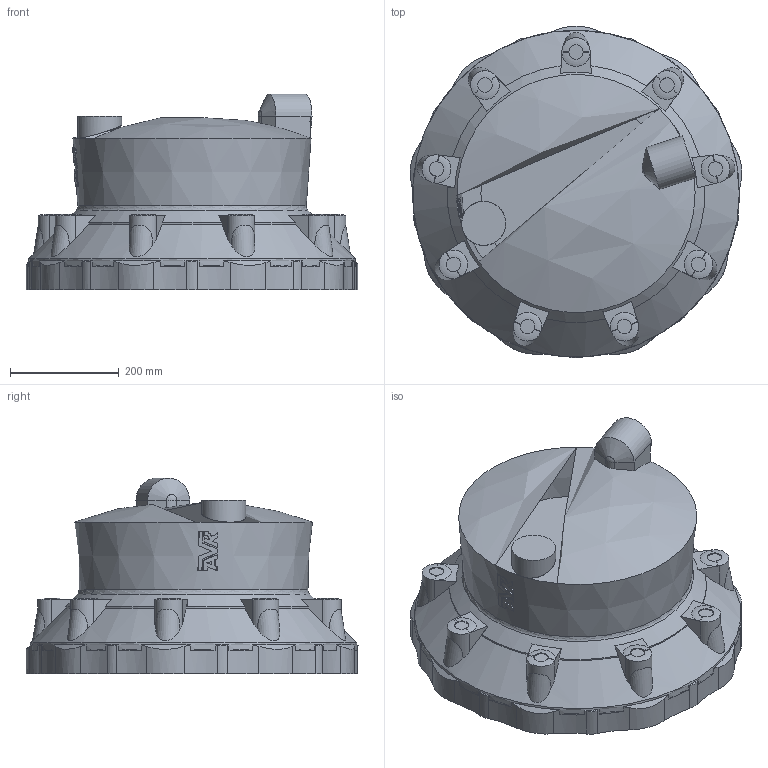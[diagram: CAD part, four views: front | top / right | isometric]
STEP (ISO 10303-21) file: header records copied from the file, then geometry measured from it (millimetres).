
FILE_DESCRIPTION (( 'STEP AP203' ), '1' );
FILE_NAME ('O_634_00_DN350_AA0.step', '2018-07-03T06:09:39', ( 'Windows User' ), ( 'AVK' ), 'SwSTEP 2.0', 'SolidWorks 2012', '' );
FILE_SCHEMA (( 'CONFIG_CONTROL_DESIGN' ));
Length unit declared in the file: millimetre
Products named in the file (1): O_634_00_DN350_AA0
Bounding box: 610.2 x 610.87 x 360.35 mm (x, y, z)
Volume: 39432726.8 mm3; surface area: 1232385.4 mm2
Topology: 1 solids, 1 shells, 383 faces, 1048 edges, 679 vertices
Faces by surface type: plane 167, cylinder 137, cone 49, torus 19, bspline 9, sphere 2
Full cylindrical faces by diameter (mm): 81 x2, 350 x1, 601 x1
Entity records: 15177 total; most frequent: CARTESIAN_POINT 5856, ORIENTED_EDGE 2068, DIRECTION 1806, EDGE_CURVE 1034, AXIS2_PLACEMENT_3D 687, VERTEX_POINT 673, VECTOR 432, LINE 432
